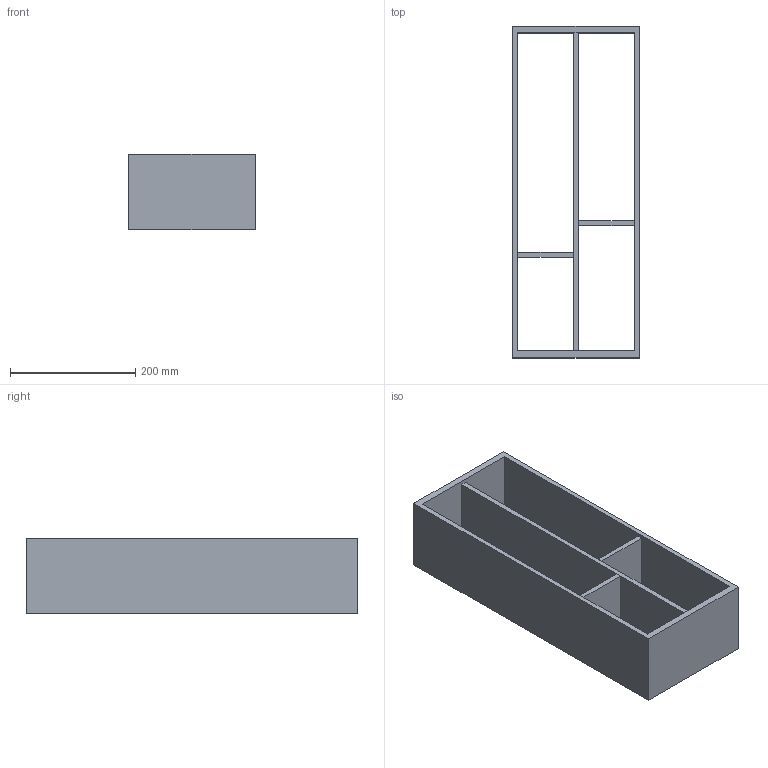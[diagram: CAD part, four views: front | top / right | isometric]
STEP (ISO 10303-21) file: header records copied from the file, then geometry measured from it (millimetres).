
FILE_DESCRIPTION (( 'STEP AP214' ), '1' );
FILE_NAME ('Vario Multi H120 NL550_B300_19 mm_Alu-Alu.step', '2010-10-08T09:48:06', ( 'grass' ), ( '' ), 'SwSTEP 2.0', 'SolidWorks 2010', '' );
FILE_SCHEMA (( 'AUTOMOTIVE_DESIGN' ));
Length unit declared in the file: millimetre
Products named in the file (1): Vario Multi H120 NL550_B300_19 mm_Alu-Alu
Bounding box: 202 x 529 x 120 mm (x, y, z)
Volume: 2131356.7 mm3; surface area: 528520.3 mm2
Topology: 1 solids, 1 shells, 22 faces, 60 edges, 40 vertices
Faces by surface type: plane 22
Entity records: 734 total; most frequent: CARTESIAN_POINT 123, ORIENTED_EDGE 120, DIRECTION 106, EDGE_CURVE 60, LINE 60, VECTOR 60, VERTEX_POINT 40, EDGE_LOOP 30
